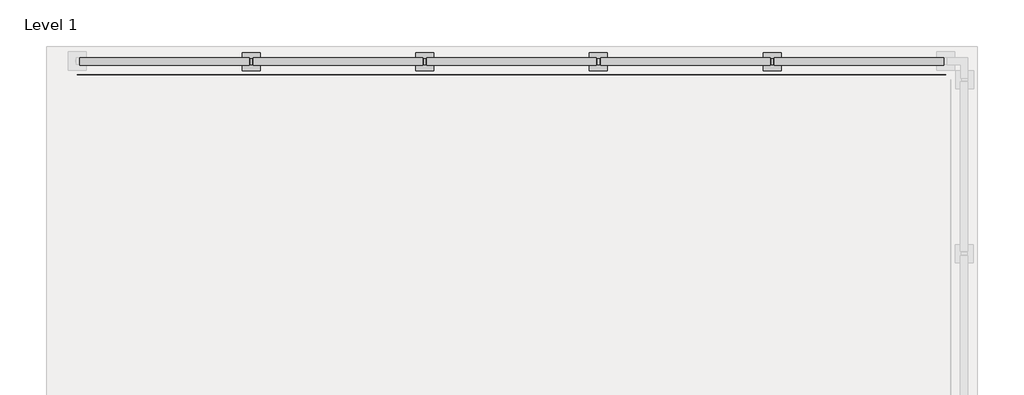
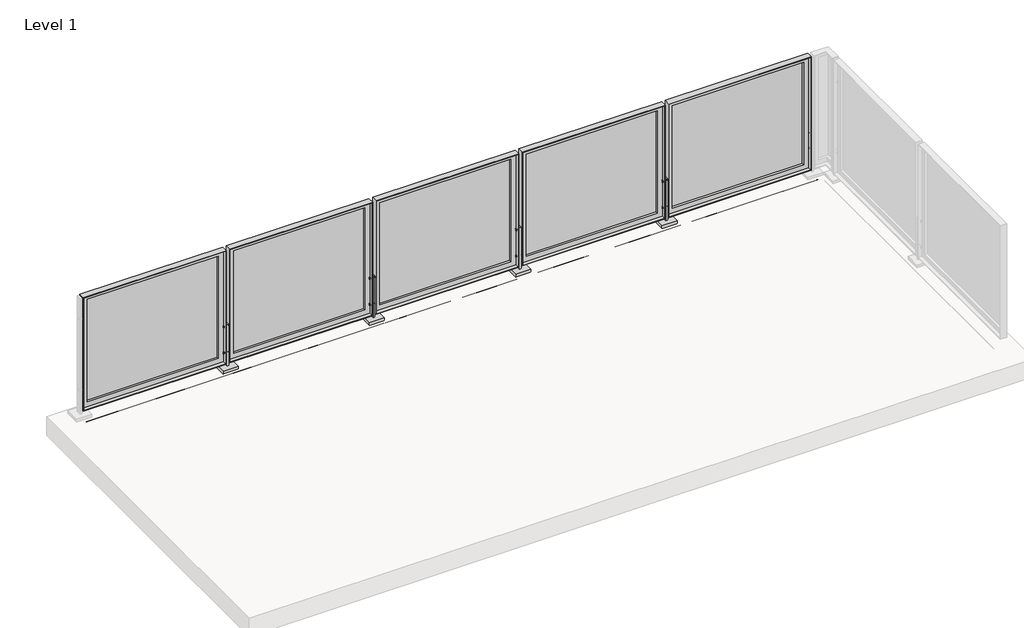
# One storey, part 4 of 37: 1 railing.
"""IFC4 building model written with IfcOpenShell, lengths in millimetres."""

from ifc_helpers import new_model, si_unit, point, frame, frame_2d, origin, origin_with_axes, place, context, project, spatial, polyline, circle_curve, trimmed, segment, composite_curve, outline, extrude, faceted_brep, element, save
from ifc_brep_helpers import plane_surface, cylinder_surface, advanced_brep

model = new_model("IFC4")

# Units and contexts
model_context = context("Model", 3, world=origin())
ifc_project = project(units=[si_unit("LENGTHUNIT", "METRE", prefix="MILLI")], contexts=[model_context])

# Site, building, storey
site = spatial("IfcSite", under=ifc_project)
building = spatial("IfcBuilding", under=site)
storey = spatial("IfcBuildingStorey", under=building, Name="Level 1", Elevation=0.0)

# Railing
placement = place(None, origin())
element("IfcRailing", 1, ObjectType="Metal-Panel-VIVA-FRAME-Slab-Top-Anchor-Straight", at=placement, inside=storey, context=model_context, shape_type="SolidModel", body=[
    extrude(outline(composite_curve([segment(trimmed(circle_curve(frame_2d((-21750.6777859, -0.254)), 0.254), [point((-21750.9317859, -0.254))], [point((-21750.4237859, -0.254))], False, "CARTESIAN"), True, "CONTINUOUS"), segment(trimmed(circle_curve(frame_2d((-21750.6777859, -0.254)), 0.254), [point((-21750.4237859, -0.254))], [point((-21750.9317859, -0.254))], False, "CARTESIAN"), True, "CONTINUOUS")], self_intersect=False)), frame((-39257.4137821, 0.0, 0.0), z_axis=(1.0, 0.0, 0.0), x_axis=(0.0, 1.0, 0.0)), (0.0, 0.0, 1.0), 6350.0),
    extrude(outline(composite_curve([segment(trimmed(circle_curve(frame_2d((-21750.6777859, -0.254)), 0.254), [point((-21750.9317859, -0.254))], [point((-21750.4237859, -0.254))], False, "CARTESIAN"), True, "CONTINUOUS"), segment(trimmed(circle_curve(frame_2d((-21750.6777859, -0.254)), 0.254), [point((-21750.4237859, -0.254))], [point((-21750.9317859, -0.254))], False, "CARTESIAN"), True, "CONTINUOUS")], self_intersect=False)), frame((-39257.4137821, 0.0, 0.0), z_axis=(1.0, 0.0, 0.0), x_axis=(0.0, 1.0, 0.0)), (0.0, 0.0, 1.0), 6350.0),
    extrude(outline(polyline([(-34136.5873251, -21627.8673859), (-32948.240239, -21627.8673859), (-32948.240239, -21630.8673859), (-34136.5873251, -21630.8673859), (-34136.5873251, -21627.8673859)])), frame((0.0, 0.0, 76.1959569), z_axis=(0.0, 0.0, 1.0), x_axis=(1.0, 0.0, 0.0)), (0.0, 0.0, 1.0), 990.5826861),
    faceted_brep([(-34161.9873251, -21627.8673859, 1092.1786431), (-32922.840239, -21627.8673859, 1092.1786431), (-32922.840239, -21627.8673859, 50.7959569), (-34161.9873251, -21627.8673859, 50.7959569), (-34136.5873251, -21627.8673859, 1066.7786431), (-34136.5873251, -21627.8673859, 76.1959569), (-32948.240239, -21627.8673859, 76.1959569), (-32948.240239, -21627.8673859, 1066.7786431), (-34136.5873251, -21630.8673859, 76.1959569), (-32948.240239, -21630.8673859, 76.1959569), (-32948.240239, -21630.8673859, 1066.7786431), (-34136.5873251, -21630.8673859, 1066.7786431), (-34155.9929251, -21681.6673859, 56.7903569), (-32928.834639, -21681.6673859, 56.7903569), (-32928.834639, -21650.8571859, 56.7903569), (-34155.9929251, -21650.8571859, 56.7903569), (-32928.834639, -21681.6673859, 1086.1842431), (-32928.834639, -21650.8571859, 1086.1842431), (-34155.9929251, -21650.8571859, 1086.1842431), (-34155.9929251, -21681.6673859, 1086.1842431), (-32922.840239, -21681.6673859, 50.7959569), (-32922.840239, -21681.6673859, 1092.1786431), (-34161.9873251, -21681.6673859, 1092.1786431), (-34161.9873251, -21681.6673859, 50.7959569), (-34111.1873251, -21630.8673859, 1041.3786431), (-34111.1873251, -21630.8673859, 101.5959569), (-32973.640239, -21630.8673859, 101.5959569), (-32973.640239, -21630.8673859, 1041.3786431), (-32973.640239, -21650.8571859, 101.5959569), (-34111.1873251, -21650.8571859, 101.5959569), (-34111.1873251, -21650.8571859, 1041.3786431), (-32973.640239, -21650.8571859, 1041.3786431)], [[[0, 1, 2, 3], [4, 5, 6, 7]], [[5, 8, 9, 6]], [[6, 9, 10, 7]], [[7, 10, 11, 4]], [[4, 11, 8, 5]], [[12, 13, 14, 15]], [[13, 16, 17, 14]], [[15, 18, 19, 12]], [[20, 21, 22, 23], [12, 19, 16, 13]], [[23, 22, 0, 3]], [[23, 3, 2, 20]], [[2, 1, 21, 20]], [[22, 21, 1, 0]], [[11, 10, 9, 8], [24, 25, 26, 27]], [[14, 17, 18, 15], [28, 29, 30, 31]], [[18, 17, 16, 19]], [[27, 31, 30, 24]], [[26, 28, 31, 27]], [[25, 29, 28, 26]], [[24, 30, 29, 25]]]),
    advanced_brep(
    [(-34203.6011821, -21654.7673859, 130.1496), (-34203.6011821, -21654.7673859, 139.7), (-34203.6011821, -21654.7673859, 149.2504), (-34198.8259821, -21654.7673859, 130.1496), (-34198.8259821, -21654.7673859, 149.2504), (-34198.8259821, -21654.7673859, 134.9248), (-34198.8259821, -21654.7673859, 144.4752), (-34156.0015821, -21654.7673859, 134.9248), (-34156.0015821, -21654.7673859, 144.4752), (-34156.0015821, -21654.7673859, 130.1496), (-34156.0015821, -21654.7673859, 149.2504), (-34151.2263821, -21654.7673859, 130.1496), (-34151.2263821, -21654.7673859, 149.2504), (-34151.2263821, -21654.7673859, 139.7)],
    [
        (0, 1),
        (1, 2),
        (2, 0, circle_curve(frame((-34203.6011821, -21654.7673859, 139.7), z_axis=(-1.0, 0.0, 0.0), x_axis=(0.0, 0.0, 1.0)), 9.5504)),
        (0, 2, circle_curve(frame((-34203.6011821, -21654.7673859, 139.7), z_axis=(-1.0, 0.0, 0.0), x_axis=(0.0, 0.0, 1.0)), 9.5504)),
        (3, 0),
        (2, 4),
        (4, 3, circle_curve(frame((-34198.8259821, -21654.7673859, 139.7), z_axis=(-1.0, 0.0, 0.0), x_axis=(0.0, 0.0, 1.0)), 9.5504)),
        (3, 4, circle_curve(frame((-34198.8259821, -21654.7673859, 139.7), z_axis=(-1.0, 0.0, 0.0), x_axis=(0.0, 0.0, 1.0)), 9.5504)),
        (5, 3),
        (4, 6),
        (6, 5, circle_curve(frame((-34198.8259821, -21654.7673859, 139.7), z_axis=(-1.0, 0.0, 0.0), x_axis=(0.0, 0.0, 1.0)), 4.7752)),
        (5, 6, circle_curve(frame((-34198.8259821, -21654.7673859, 139.7), z_axis=(-1.0, 0.0, 0.0), x_axis=(0.0, 0.0, 1.0)), 4.7752)),
        (7, 5),
        (6, 8),
        (8, 7, circle_curve(frame((-34156.0015821, -21654.7673859, 139.7), z_axis=(-1.0, 0.0, 0.0), x_axis=(0.0, 0.0, 1.0)), 4.7752)),
        (7, 8, circle_curve(frame((-34156.0015821, -21654.7673859, 139.7), z_axis=(-1.0, 0.0, 0.0), x_axis=(0.0, 0.0, 1.0)), 4.7752)),
        (9, 7),
        (8, 10),
        (10, 9, circle_curve(frame((-34156.0015821, -21654.7673859, 139.7), z_axis=(-1.0, 0.0, 0.0), x_axis=(0.0, 0.0, 1.0)), 9.5504)),
        (9, 10, circle_curve(frame((-34156.0015821, -21654.7673859, 139.7), z_axis=(-1.0, 0.0, 0.0), x_axis=(0.0, 0.0, 1.0)), 9.5504)),
        (11, 9),
        (10, 12),
        (12, 11, circle_curve(frame((-34151.2263821, -21654.7673859, 139.7), z_axis=(-1.0, 0.0, 0.0), x_axis=(0.0, 0.0, 1.0)), 9.5504)),
        (11, 12, circle_curve(frame((-34151.2263821, -21654.7673859, 139.7), z_axis=(-1.0, 0.0, 0.0), x_axis=(0.0, 0.0, 1.0)), 9.5504)),
        (13, 11),
        (12, 13),
    ],
    [
        plane_surface(frame((-34203.6011821, -21654.7673859, 139.7), z_axis=(-1.0, 0.0, 0.0), x_axis=(0.0, 0.0, 1.0))),
        cylinder_surface(frame((-37595.1815392, -21654.7673859, 139.7), z_axis=(1.0, 0.0, 0.0), x_axis=(0.0, 0.0, 1.0)), 9.5504),
        plane_surface(frame((-34198.8259821, -21654.7673859, 139.7), z_axis=(1.0, 0.0, 0.0), x_axis=(0.0, 0.0, 1.0))),
        cylinder_surface(frame((-37595.1815392, -21654.7673859, 139.7), z_axis=(1.0, 0.0, 0.0), x_axis=(0.0, 0.0, 1.0)), 4.7752),
        plane_surface(frame((-34156.0015821, -21654.7673859, 139.7), z_axis=(-1.0, 0.0, 0.0), x_axis=(0.0, 0.0, 1.0))),
        plane_surface(frame((-34151.2263821, -21654.7673859, 139.7), z_axis=(1.0, 0.0, 0.0), x_axis=(0.0, 0.0, 1.0))),
    ],
    [
        (0, [[1, 2, 3]]),
        (0, [[-2, -1, 4]]),
        (1, [[5, -3, 6, 7]]),
        (1, [[-6, -4, -5, 8]]),
        (2, [[9, -7, 10, 11]]),
        (2, [[-10, -8, -9, 12]]),
        (3, [[13, -11, 14, 15]]),
        (3, [[-14, -12, -13, 16]]),
        (4, [[17, -15, 18, 19]]),
        (4, [[-18, -16, -17, 20]]),
        (1, [[21, -19, 22, 23]]),
        (1, [[-22, -20, -21, 24]]),
        (5, [[25, -23, 26]]),
        (5, [[-26, -24, -25]]),
    ],
),
    advanced_brep(
    [(-34203.6011821, -21654.7673859, 371.4496), (-34203.6011821, -21654.7673859, 381.0), (-34203.6011821, -21654.7673859, 390.5504), (-34198.8259821, -21654.7673859, 371.4496), (-34198.8259821, -21654.7673859, 390.5504), (-34198.8259821, -21654.7673859, 376.2248), (-34198.8259821, -21654.7673859, 385.7752), (-34156.0015821, -21654.7673859, 376.2248), (-34156.0015821, -21654.7673859, 385.7752), (-34156.0015821, -21654.7673859, 371.4496), (-34156.0015821, -21654.7673859, 390.5504), (-34151.2263821, -21654.7673859, 371.4496), (-34151.2263821, -21654.7673859, 390.5504), (-34151.2263821, -21654.7673859, 381.0)],
    [
        (0, 1),
        (1, 2),
        (2, 0, circle_curve(frame((-34203.6011821, -21654.7673859, 381.0), z_axis=(-1.0, 0.0, 0.0), x_axis=(0.0, 0.0, 1.0)), 9.5504)),
        (0, 2, circle_curve(frame((-34203.6011821, -21654.7673859, 381.0), z_axis=(-1.0, 0.0, 0.0), x_axis=(0.0, 0.0, 1.0)), 9.5504)),
        (3, 0),
        (2, 4),
        (4, 3, circle_curve(frame((-34198.8259821, -21654.7673859, 381.0), z_axis=(-1.0, 0.0, 0.0), x_axis=(0.0, 0.0, 1.0)), 9.5504)),
        (3, 4, circle_curve(frame((-34198.8259821, -21654.7673859, 381.0), z_axis=(-1.0, 0.0, 0.0), x_axis=(0.0, 0.0, 1.0)), 9.5504)),
        (5, 3),
        (4, 6),
        (6, 5, circle_curve(frame((-34198.8259821, -21654.7673859, 381.0), z_axis=(-1.0, 0.0, 0.0), x_axis=(0.0, 0.0, 1.0)), 4.7752)),
        (5, 6, circle_curve(frame((-34198.8259821, -21654.7673859, 381.0), z_axis=(-1.0, 0.0, 0.0), x_axis=(0.0, 0.0, 1.0)), 4.7752)),
        (7, 5),
        (6, 8),
        (8, 7, circle_curve(frame((-34156.0015821, -21654.7673859, 381.0), z_axis=(-1.0, 0.0, 0.0), x_axis=(0.0, 0.0, 1.0)), 4.7752)),
        (7, 8, circle_curve(frame((-34156.0015821, -21654.7673859, 381.0), z_axis=(-1.0, 0.0, 0.0), x_axis=(0.0, 0.0, 1.0)), 4.7752)),
        (9, 7),
        (8, 10),
        (10, 9, circle_curve(frame((-34156.0015821, -21654.7673859, 381.0), z_axis=(-1.0, 0.0, 0.0), x_axis=(0.0, 0.0, 1.0)), 9.5504)),
        (9, 10, circle_curve(frame((-34156.0015821, -21654.7673859, 381.0), z_axis=(-1.0, 0.0, 0.0), x_axis=(0.0, 0.0, 1.0)), 9.5504)),
        (11, 9),
        (10, 12),
        (12, 11, circle_curve(frame((-34151.2263821, -21654.7673859, 381.0), z_axis=(-1.0, 0.0, 0.0), x_axis=(0.0, 0.0, 1.0)), 9.5504)),
        (11, 12, circle_curve(frame((-34151.2263821, -21654.7673859, 381.0), z_axis=(-1.0, 0.0, 0.0), x_axis=(0.0, 0.0, 1.0)), 9.5504)),
        (13, 11),
        (12, 13),
    ],
    [
        plane_surface(frame((-34203.6011821, -21654.7673859, 381.0), z_axis=(-1.0, 0.0, 0.0), x_axis=(0.0, 0.0, 1.0))),
        cylinder_surface(frame((-37595.1815392, -21654.7673859, 381.0), z_axis=(1.0, 0.0, 0.0), x_axis=(0.0, 0.0, 1.0)), 9.5504),
        plane_surface(frame((-34198.8259821, -21654.7673859, 381.0), z_axis=(1.0, 0.0, 0.0), x_axis=(0.0, 0.0, 1.0))),
        cylinder_surface(frame((-37595.1815392, -21654.7673859, 381.0), z_axis=(1.0, 0.0, 0.0), x_axis=(0.0, 0.0, 1.0)), 4.7752),
        plane_surface(frame((-34156.0015821, -21654.7673859, 381.0), z_axis=(-1.0, 0.0, 0.0), x_axis=(0.0, 0.0, 1.0))),
        plane_surface(frame((-34151.2263821, -21654.7673859, 381.0), z_axis=(1.0, 0.0, 0.0), x_axis=(0.0, 0.0, 1.0))),
    ],
    [
        (0, [[1, 2, 3]]),
        (0, [[-2, -1, 4]]),
        (1, [[5, -3, 6, 7]]),
        (1, [[-6, -4, -5, 8]]),
        (2, [[9, -7, 10, 11]]),
        (2, [[-10, -8, -9, 12]]),
        (3, [[13, -11, 14, 15]]),
        (3, [[-14, -12, -13, 16]]),
        (4, [[17, -15, 18, 19]]),
        (4, [[-18, -16, -17, 20]]),
        (1, [[21, -19, 22, 23]]),
        (1, [[-22, -20, -21, 24]]),
        (5, [[25, -23, 26]]),
        (5, [[-26, -24, -25]]),
    ],
),
    extrude(outline(polyline([(-34243.3013821, -21720.6549859), (-34243.3013821, -21588.8797859), (-34111.5261821, -21588.8797859), (-34111.5261821, -21720.6549859), (-34243.3013821, -21720.6549859)])), origin_with_axes(), (0.0, 0.0, 1.0), 25.4),
    extrude(outline(polyline([(-34185.3533737, -21676.9923859), (-34185.3533737, -21632.5423859), (-34169.4741904, -21632.5423859), (-34169.4741904, -21676.9923859), (-34185.3533737, -21676.9923859)])), origin_with_axes(), (0.0, 0.0, 1.0), 406.4),
    extrude(outline(polyline([(-35406.5873251, -21627.8673859), (-34218.240239, -21627.8673859), (-34218.240239, -21630.8673859), (-35406.5873251, -21630.8673859), (-35406.5873251, -21627.8673859)])), frame((0.0, 0.0, 76.1959569), z_axis=(0.0, 0.0, 1.0), x_axis=(1.0, 0.0, 0.0)), (0.0, 0.0, 1.0), 990.5826861),
    faceted_brep([(-35431.9873251, -21627.8673859, 1092.1786431), (-34192.840239, -21627.8673859, 1092.1786431), (-34192.840239, -21627.8673859, 50.7959569), (-35431.9873251, -21627.8673859, 50.7959569), (-35406.5873251, -21627.8673859, 1066.7786431), (-35406.5873251, -21627.8673859, 76.1959569), (-34218.240239, -21627.8673859, 76.1959569), (-34218.240239, -21627.8673859, 1066.7786431), (-35406.5873251, -21630.8673859, 76.1959569), (-34218.240239, -21630.8673859, 76.1959569), (-34218.240239, -21630.8673859, 1066.7786431), (-35406.5873251, -21630.8673859, 1066.7786431), (-35425.9929251, -21681.6673859, 56.7903569), (-34198.834639, -21681.6673859, 56.7903569), (-34198.834639, -21650.8571859, 56.7903569), (-35425.9929251, -21650.8571859, 56.7903569), (-34198.834639, -21681.6673859, 1086.1842431), (-34198.834639, -21650.8571859, 1086.1842431), (-35425.9929251, -21650.8571859, 1086.1842431), (-35425.9929251, -21681.6673859, 1086.1842431), (-34192.840239, -21681.6673859, 50.7959569), (-34192.840239, -21681.6673859, 1092.1786431), (-35431.9873251, -21681.6673859, 1092.1786431), (-35431.9873251, -21681.6673859, 50.7959569), (-35381.1873251, -21630.8673859, 1041.3786431), (-35381.1873251, -21630.8673859, 101.5959569), (-34243.640239, -21630.8673859, 101.5959569), (-34243.640239, -21630.8673859, 1041.3786431), (-34243.640239, -21650.8571859, 101.5959569), (-35381.1873251, -21650.8571859, 101.5959569), (-35381.1873251, -21650.8571859, 1041.3786431), (-34243.640239, -21650.8571859, 1041.3786431)], [[[0, 1, 2, 3], [4, 5, 6, 7]], [[5, 8, 9, 6]], [[6, 9, 10, 7]], [[7, 10, 11, 4]], [[4, 11, 8, 5]], [[12, 13, 14, 15]], [[13, 16, 17, 14]], [[15, 18, 19, 12]], [[20, 21, 22, 23], [12, 19, 16, 13]], [[23, 22, 0, 3]], [[23, 3, 2, 20]], [[2, 1, 21, 20]], [[22, 21, 1, 0]], [[11, 10, 9, 8], [24, 25, 26, 27]], [[14, 17, 18, 15], [28, 29, 30, 31]], [[18, 17, 16, 19]], [[27, 31, 30, 24]], [[26, 28, 31, 27]], [[25, 29, 28, 26]], [[24, 30, 29, 25]]]),
    advanced_brep(
    [(-35473.6011821, -21654.7673859, 130.1496), (-35473.6011821, -21654.7673859, 139.7), (-35473.6011821, -21654.7673859, 149.2504), (-35468.8259821, -21654.7673859, 130.1496), (-35468.8259821, -21654.7673859, 149.2504), (-35468.8259821, -21654.7673859, 134.9248), (-35468.8259821, -21654.7673859, 144.4752), (-35426.0015821, -21654.7673859, 134.9248), (-35426.0015821, -21654.7673859, 144.4752), (-35426.0015821, -21654.7673859, 130.1496), (-35426.0015821, -21654.7673859, 149.2504), (-35421.2263821, -21654.7673859, 130.1496), (-35421.2263821, -21654.7673859, 149.2504), (-35421.2263821, -21654.7673859, 139.7)],
    [
        (0, 1),
        (1, 2),
        (2, 0, circle_curve(frame((-35473.6011821, -21654.7673859, 139.7), z_axis=(-1.0, 0.0, 0.0), x_axis=(0.0, 0.0, 1.0)), 9.5504)),
        (0, 2, circle_curve(frame((-35473.6011821, -21654.7673859, 139.7), z_axis=(-1.0, 0.0, 0.0), x_axis=(0.0, 0.0, 1.0)), 9.5504)),
        (3, 0),
        (2, 4),
        (4, 3, circle_curve(frame((-35468.8259821, -21654.7673859, 139.7), z_axis=(-1.0, 0.0, 0.0), x_axis=(0.0, 0.0, 1.0)), 9.5504)),
        (3, 4, circle_curve(frame((-35468.8259821, -21654.7673859, 139.7), z_axis=(-1.0, 0.0, 0.0), x_axis=(0.0, 0.0, 1.0)), 9.5504)),
        (5, 3),
        (4, 6),
        (6, 5, circle_curve(frame((-35468.8259821, -21654.7673859, 139.7), z_axis=(-1.0, 0.0, 0.0), x_axis=(0.0, 0.0, 1.0)), 4.7752)),
        (5, 6, circle_curve(frame((-35468.8259821, -21654.7673859, 139.7), z_axis=(-1.0, 0.0, 0.0), x_axis=(0.0, 0.0, 1.0)), 4.7752)),
        (7, 5),
        (6, 8),
        (8, 7, circle_curve(frame((-35426.0015821, -21654.7673859, 139.7), z_axis=(-1.0, 0.0, 0.0), x_axis=(0.0, 0.0, 1.0)), 4.7752)),
        (7, 8, circle_curve(frame((-35426.0015821, -21654.7673859, 139.7), z_axis=(-1.0, 0.0, 0.0), x_axis=(0.0, 0.0, 1.0)), 4.7752)),
        (9, 7),
        (8, 10),
        (10, 9, circle_curve(frame((-35426.0015821, -21654.7673859, 139.7), z_axis=(-1.0, 0.0, 0.0), x_axis=(0.0, 0.0, 1.0)), 9.5504)),
        (9, 10, circle_curve(frame((-35426.0015821, -21654.7673859, 139.7), z_axis=(-1.0, 0.0, 0.0), x_axis=(0.0, 0.0, 1.0)), 9.5504)),
        (11, 9),
        (10, 12),
        (12, 11, circle_curve(frame((-35421.2263821, -21654.7673859, 139.7), z_axis=(-1.0, 0.0, 0.0), x_axis=(0.0, 0.0, 1.0)), 9.5504)),
        (11, 12, circle_curve(frame((-35421.2263821, -21654.7673859, 139.7), z_axis=(-1.0, 0.0, 0.0), x_axis=(0.0, 0.0, 1.0)), 9.5504)),
        (13, 11),
        (12, 13),
    ],
    [
        plane_surface(frame((-35473.6011821, -21654.7673859, 139.7), z_axis=(-1.0, 0.0, 0.0), x_axis=(0.0, 0.0, 1.0))),
        cylinder_surface(frame((-38865.1815392, -21654.7673859, 139.7), z_axis=(1.0, 0.0, 0.0), x_axis=(0.0, 0.0, 1.0)), 9.5504),
        plane_surface(frame((-35468.8259821, -21654.7673859, 139.7), z_axis=(1.0, 0.0, 0.0), x_axis=(0.0, 0.0, 1.0))),
        cylinder_surface(frame((-38865.1815392, -21654.7673859, 139.7), z_axis=(1.0, 0.0, 0.0), x_axis=(0.0, 0.0, 1.0)), 4.7752),
        plane_surface(frame((-35426.0015821, -21654.7673859, 139.7), z_axis=(-1.0, 0.0, 0.0), x_axis=(0.0, 0.0, 1.0))),
        plane_surface(frame((-35421.2263821, -21654.7673859, 139.7), z_axis=(1.0, 0.0, 0.0), x_axis=(0.0, 0.0, 1.0))),
    ],
    [
        (0, [[1, 2, 3]]),
        (0, [[-2, -1, 4]]),
        (1, [[5, -3, 6, 7]]),
        (1, [[-6, -4, -5, 8]]),
        (2, [[9, -7, 10, 11]]),
        (2, [[-10, -8, -9, 12]]),
        (3, [[13, -11, 14, 15]]),
        (3, [[-14, -12, -13, 16]]),
        (4, [[17, -15, 18, 19]]),
        (4, [[-18, -16, -17, 20]]),
        (1, [[21, -19, 22, 23]]),
        (1, [[-22, -20, -21, 24]]),
        (5, [[25, -23, 26]]),
        (5, [[-26, -24, -25]]),
    ],
),
    advanced_brep(
    [(-35473.6011821, -21654.7673859, 371.4496), (-35473.6011821, -21654.7673859, 381.0), (-35473.6011821, -21654.7673859, 390.5504), (-35468.8259821, -21654.7673859, 371.4496), (-35468.8259821, -21654.7673859, 390.5504), (-35468.8259821, -21654.7673859, 376.2248), (-35468.8259821, -21654.7673859, 385.7752), (-35426.0015821, -21654.7673859, 376.2248), (-35426.0015821, -21654.7673859, 385.7752), (-35426.0015821, -21654.7673859, 371.4496), (-35426.0015821, -21654.7673859, 390.5504), (-35421.2263821, -21654.7673859, 371.4496), (-35421.2263821, -21654.7673859, 390.5504), (-35421.2263821, -21654.7673859, 381.0)],
    [
        (0, 1),
        (1, 2),
        (2, 0, circle_curve(frame((-35473.6011821, -21654.7673859, 381.0), z_axis=(-1.0, 0.0, 0.0), x_axis=(0.0, 0.0, 1.0)), 9.5504)),
        (0, 2, circle_curve(frame((-35473.6011821, -21654.7673859, 381.0), z_axis=(-1.0, 0.0, 0.0), x_axis=(0.0, 0.0, 1.0)), 9.5504)),
        (3, 0),
        (2, 4),
        (4, 3, circle_curve(frame((-35468.8259821, -21654.7673859, 381.0), z_axis=(-1.0, 0.0, 0.0), x_axis=(0.0, 0.0, 1.0)), 9.5504)),
        (3, 4, circle_curve(frame((-35468.8259821, -21654.7673859, 381.0), z_axis=(-1.0, 0.0, 0.0), x_axis=(0.0, 0.0, 1.0)), 9.5504)),
        (5, 3),
        (4, 6),
        (6, 5, circle_curve(frame((-35468.8259821, -21654.7673859, 381.0), z_axis=(-1.0, 0.0, 0.0), x_axis=(0.0, 0.0, 1.0)), 4.7752)),
        (5, 6, circle_curve(frame((-35468.8259821, -21654.7673859, 381.0), z_axis=(-1.0, 0.0, 0.0), x_axis=(0.0, 0.0, 1.0)), 4.7752)),
        (7, 5),
        (6, 8),
        (8, 7, circle_curve(frame((-35426.0015821, -21654.7673859, 381.0), z_axis=(-1.0, 0.0, 0.0), x_axis=(0.0, 0.0, 1.0)), 4.7752)),
        (7, 8, circle_curve(frame((-35426.0015821, -21654.7673859, 381.0), z_axis=(-1.0, 0.0, 0.0), x_axis=(0.0, 0.0, 1.0)), 4.7752)),
        (9, 7),
        (8, 10),
        (10, 9, circle_curve(frame((-35426.0015821, -21654.7673859, 381.0), z_axis=(-1.0, 0.0, 0.0), x_axis=(0.0, 0.0, 1.0)), 9.5504)),
        (9, 10, circle_curve(frame((-35426.0015821, -21654.7673859, 381.0), z_axis=(-1.0, 0.0, 0.0), x_axis=(0.0, 0.0, 1.0)), 9.5504)),
        (11, 9),
        (10, 12),
        (12, 11, circle_curve(frame((-35421.2263821, -21654.7673859, 381.0), z_axis=(-1.0, 0.0, 0.0), x_axis=(0.0, 0.0, 1.0)), 9.5504)),
        (11, 12, circle_curve(frame((-35421.2263821, -21654.7673859, 381.0), z_axis=(-1.0, 0.0, 0.0), x_axis=(0.0, 0.0, 1.0)), 9.5504)),
        (13, 11),
        (12, 13),
    ],
    [
        plane_surface(frame((-35473.6011821, -21654.7673859, 381.0), z_axis=(-1.0, 0.0, 0.0), x_axis=(0.0, 0.0, 1.0))),
        cylinder_surface(frame((-38865.1815392, -21654.7673859, 381.0), z_axis=(1.0, 0.0, 0.0), x_axis=(0.0, 0.0, 1.0)), 9.5504),
        plane_surface(frame((-35468.8259821, -21654.7673859, 381.0), z_axis=(1.0, 0.0, 0.0), x_axis=(0.0, 0.0, 1.0))),
        cylinder_surface(frame((-38865.1815392, -21654.7673859, 381.0), z_axis=(1.0, 0.0, 0.0), x_axis=(0.0, 0.0, 1.0)), 4.7752),
        plane_surface(frame((-35426.0015821, -21654.7673859, 381.0), z_axis=(-1.0, 0.0, 0.0), x_axis=(0.0, 0.0, 1.0))),
        plane_surface(frame((-35421.2263821, -21654.7673859, 381.0), z_axis=(1.0, 0.0, 0.0), x_axis=(0.0, 0.0, 1.0))),
    ],
    [
        (0, [[1, 2, 3]]),
        (0, [[-2, -1, 4]]),
        (1, [[5, -3, 6, 7]]),
        (1, [[-6, -4, -5, 8]]),
        (2, [[9, -7, 10, 11]]),
        (2, [[-10, -8, -9, 12]]),
        (3, [[13, -11, 14, 15]]),
        (3, [[-14, -12, -13, 16]]),
        (4, [[17, -15, 18, 19]]),
        (4, [[-18, -16, -17, 20]]),
        (1, [[21, -19, 22, 23]]),
        (1, [[-22, -20, -21, 24]]),
        (5, [[25, -23, 26]]),
        (5, [[-26, -24, -25]]),
    ],
),
    extrude(outline(polyline([(-35513.3013821, -21720.6549859), (-35513.3013821, -21588.8797859), (-35381.5261821, -21588.8797859), (-35381.5261821, -21720.6549859), (-35513.3013821, -21720.6549859)])), origin_with_axes(), (0.0, 0.0, 1.0), 25.4),
    extrude(outline(polyline([(-35455.3533737, -21676.9923859), (-35455.3533737, -21632.5423859), (-35439.4741904, -21632.5423859), (-35439.4741904, -21676.9923859), (-35455.3533737, -21676.9923859)])), origin_with_axes(), (0.0, 0.0, 1.0), 406.4),
    extrude(outline(polyline([(-36676.5873251, -21627.8673859), (-35488.240239, -21627.8673859), (-35488.240239, -21630.8673859), (-36676.5873251, -21630.8673859), (-36676.5873251, -21627.8673859)])), frame((0.0, 0.0, 76.1959569), z_axis=(0.0, 0.0, 1.0), x_axis=(1.0, 0.0, 0.0)), (0.0, 0.0, 1.0), 990.5826861),
    faceted_brep([(-36701.9873251, -21627.8673859, 1092.1786431), (-35462.840239, -21627.8673859, 1092.1786431), (-35462.840239, -21627.8673859, 50.7959569), (-36701.9873251, -21627.8673859, 50.7959569), (-36676.5873251, -21627.8673859, 1066.7786431), (-36676.5873251, -21627.8673859, 76.1959569), (-35488.240239, -21627.8673859, 76.1959569), (-35488.240239, -21627.8673859, 1066.7786431), (-36676.5873251, -21630.8673859, 76.1959569), (-35488.240239, -21630.8673859, 76.1959569), (-35488.240239, -21630.8673859, 1066.7786431), (-36676.5873251, -21630.8673859, 1066.7786431), (-36695.9929251, -21681.6673859, 56.7903569), (-35468.834639, -21681.6673859, 56.7903569), (-35468.834639, -21650.8571859, 56.7903569), (-36695.9929251, -21650.8571859, 56.7903569), (-35468.834639, -21681.6673859, 1086.1842431), (-35468.834639, -21650.8571859, 1086.1842431), (-36695.9929251, -21650.8571859, 1086.1842431), (-36695.9929251, -21681.6673859, 1086.1842431), (-35462.840239, -21681.6673859, 50.7959569), (-35462.840239, -21681.6673859, 1092.1786431), (-36701.9873251, -21681.6673859, 1092.1786431), (-36701.9873251, -21681.6673859, 50.7959569), (-36651.1873251, -21630.8673859, 1041.3786431), (-36651.1873251, -21630.8673859, 101.5959569), (-35513.640239, -21630.8673859, 101.5959569), (-35513.640239, -21630.8673859, 1041.3786431), (-35513.640239, -21650.8571859, 101.5959569), (-36651.1873251, -21650.8571859, 101.5959569), (-36651.1873251, -21650.8571859, 1041.3786431), (-35513.640239, -21650.8571859, 1041.3786431)], [[[0, 1, 2, 3], [4, 5, 6, 7]], [[5, 8, 9, 6]], [[6, 9, 10, 7]], [[7, 10, 11, 4]], [[4, 11, 8, 5]], [[12, 13, 14, 15]], [[13, 16, 17, 14]], [[15, 18, 19, 12]], [[20, 21, 22, 23], [12, 19, 16, 13]], [[23, 22, 0, 3]], [[23, 3, 2, 20]], [[2, 1, 21, 20]], [[22, 21, 1, 0]], [[11, 10, 9, 8], [24, 25, 26, 27]], [[14, 17, 18, 15], [28, 29, 30, 31]], [[18, 17, 16, 19]], [[27, 31, 30, 24]], [[26, 28, 31, 27]], [[25, 29, 28, 26]], [[24, 30, 29, 25]]]),
    advanced_brep(
    [(-36743.6011821, -21654.7673859, 130.1496), (-36743.6011821, -21654.7673859, 139.7), (-36743.6011821, -21654.7673859, 149.2504), (-36738.8259821, -21654.7673859, 130.1496), (-36738.8259821, -21654.7673859, 149.2504), (-36738.8259821, -21654.7673859, 134.9248), (-36738.8259821, -21654.7673859, 144.4752), (-36696.0015821, -21654.7673859, 134.9248), (-36696.0015821, -21654.7673859, 144.4752), (-36696.0015821, -21654.7673859, 130.1496), (-36696.0015821, -21654.7673859, 149.2504), (-36691.2263821, -21654.7673859, 130.1496), (-36691.2263821, -21654.7673859, 149.2504), (-36691.2263821, -21654.7673859, 139.7)],
    [
        (0, 1),
        (1, 2),
        (2, 0, circle_curve(frame((-36743.6011821, -21654.7673859, 139.7), z_axis=(-1.0, 0.0, 0.0), x_axis=(0.0, 0.0, 1.0)), 9.5504)),
        (0, 2, circle_curve(frame((-36743.6011821, -21654.7673859, 139.7), z_axis=(-1.0, 0.0, 0.0), x_axis=(0.0, 0.0, 1.0)), 9.5504)),
        (3, 0),
        (2, 4),
        (4, 3, circle_curve(frame((-36738.8259821, -21654.7673859, 139.7), z_axis=(-1.0, 0.0, 0.0), x_axis=(0.0, 0.0, 1.0)), 9.5504)),
        (3, 4, circle_curve(frame((-36738.8259821, -21654.7673859, 139.7), z_axis=(-1.0, 0.0, 0.0), x_axis=(0.0, 0.0, 1.0)), 9.5504)),
        (5, 3),
        (4, 6),
        (6, 5, circle_curve(frame((-36738.8259821, -21654.7673859, 139.7), z_axis=(-1.0, 0.0, 0.0), x_axis=(0.0, 0.0, 1.0)), 4.7752)),
        (5, 6, circle_curve(frame((-36738.8259821, -21654.7673859, 139.7), z_axis=(-1.0, 0.0, 0.0), x_axis=(0.0, 0.0, 1.0)), 4.7752)),
        (7, 5),
        (6, 8),
        (8, 7, circle_curve(frame((-36696.0015821, -21654.7673859, 139.7), z_axis=(-1.0, 0.0, 0.0), x_axis=(0.0, 0.0, 1.0)), 4.7752)),
        (7, 8, circle_curve(frame((-36696.0015821, -21654.7673859, 139.7), z_axis=(-1.0, 0.0, 0.0), x_axis=(0.0, 0.0, 1.0)), 4.7752)),
        (9, 7),
        (8, 10),
        (10, 9, circle_curve(frame((-36696.0015821, -21654.7673859, 139.7), z_axis=(-1.0, 0.0, 0.0), x_axis=(0.0, 0.0, 1.0)), 9.5504)),
        (9, 10, circle_curve(frame((-36696.0015821, -21654.7673859, 139.7), z_axis=(-1.0, 0.0, 0.0), x_axis=(0.0, 0.0, 1.0)), 9.5504)),
        (11, 9),
        (10, 12),
        (12, 11, circle_curve(frame((-36691.2263821, -21654.7673859, 139.7), z_axis=(-1.0, 0.0, 0.0), x_axis=(0.0, 0.0, 1.0)), 9.5504)),
        (11, 12, circle_curve(frame((-36691.2263821, -21654.7673859, 139.7), z_axis=(-1.0, 0.0, 0.0), x_axis=(0.0, 0.0, 1.0)), 9.5504)),
        (13, 11),
        (12, 13),
    ],
    [
        plane_surface(frame((-36743.6011821, -21654.7673859, 139.7), z_axis=(-1.0, 0.0, 0.0), x_axis=(0.0, 0.0, 1.0))),
        cylinder_surface(frame((-40135.1815392, -21654.7673859, 139.7), z_axis=(1.0, 0.0, 0.0), x_axis=(0.0, 0.0, 1.0)), 9.5504),
        plane_surface(frame((-36738.8259821, -21654.7673859, 139.7), z_axis=(1.0, 0.0, 0.0), x_axis=(0.0, 0.0, 1.0))),
        cylinder_surface(frame((-40135.1815392, -21654.7673859, 139.7), z_axis=(1.0, 0.0, 0.0), x_axis=(0.0, 0.0, 1.0)), 4.7752),
        plane_surface(frame((-36696.0015821, -21654.7673859, 139.7), z_axis=(-1.0, 0.0, 0.0), x_axis=(0.0, 0.0, 1.0))),
        plane_surface(frame((-36691.2263821, -21654.7673859, 139.7), z_axis=(1.0, 0.0, 0.0), x_axis=(0.0, 0.0, 1.0))),
    ],
    [
        (0, [[1, 2, 3]]),
        (0, [[-2, -1, 4]]),
        (1, [[5, -3, 6, 7]]),
        (1, [[-6, -4, -5, 8]]),
        (2, [[9, -7, 10, 11]]),
        (2, [[-10, -8, -9, 12]]),
        (3, [[13, -11, 14, 15]]),
        (3, [[-14, -12, -13, 16]]),
        (4, [[17, -15, 18, 19]]),
        (4, [[-18, -16, -17, 20]]),
        (1, [[21, -19, 22, 23]]),
        (1, [[-22, -20, -21, 24]]),
        (5, [[25, -23, 26]]),
        (5, [[-26, -24, -25]]),
    ],
),
    advanced_brep(
    [(-36743.6011821, -21654.7673859, 371.4496), (-36743.6011821, -21654.7673859, 381.0), (-36743.6011821, -21654.7673859, 390.5504), (-36738.8259821, -21654.7673859, 371.4496), (-36738.8259821, -21654.7673859, 390.5504), (-36738.8259821, -21654.7673859, 376.2248), (-36738.8259821, -21654.7673859, 385.7752), (-36696.0015821, -21654.7673859, 376.2248), (-36696.0015821, -21654.7673859, 385.7752), (-36696.0015821, -21654.7673859, 371.4496), (-36696.0015821, -21654.7673859, 390.5504), (-36691.2263821, -21654.7673859, 371.4496), (-36691.2263821, -21654.7673859, 390.5504), (-36691.2263821, -21654.7673859, 381.0)],
    [
        (0, 1),
        (1, 2),
        (2, 0, circle_curve(frame((-36743.6011821, -21654.7673859, 381.0), z_axis=(-1.0, 0.0, 0.0), x_axis=(0.0, 0.0, 1.0)), 9.5504)),
        (0, 2, circle_curve(frame((-36743.6011821, -21654.7673859, 381.0), z_axis=(-1.0, 0.0, 0.0), x_axis=(0.0, 0.0, 1.0)), 9.5504)),
        (3, 0),
        (2, 4),
        (4, 3, circle_curve(frame((-36738.8259821, -21654.7673859, 381.0), z_axis=(-1.0, 0.0, 0.0), x_axis=(0.0, 0.0, 1.0)), 9.5504)),
        (3, 4, circle_curve(frame((-36738.8259821, -21654.7673859, 381.0), z_axis=(-1.0, 0.0, 0.0), x_axis=(0.0, 0.0, 1.0)), 9.5504)),
        (5, 3),
        (4, 6),
        (6, 5, circle_curve(frame((-36738.8259821, -21654.7673859, 381.0), z_axis=(-1.0, 0.0, 0.0), x_axis=(0.0, 0.0, 1.0)), 4.7752)),
        (5, 6, circle_curve(frame((-36738.8259821, -21654.7673859, 381.0), z_axis=(-1.0, 0.0, 0.0), x_axis=(0.0, 0.0, 1.0)), 4.7752)),
        (7, 5),
        (6, 8),
        (8, 7, circle_curve(frame((-36696.0015821, -21654.7673859, 381.0), z_axis=(-1.0, 0.0, 0.0), x_axis=(0.0, 0.0, 1.0)), 4.7752)),
        (7, 8, circle_curve(frame((-36696.0015821, -21654.7673859, 381.0), z_axis=(-1.0, 0.0, 0.0), x_axis=(0.0, 0.0, 1.0)), 4.7752)),
        (9, 7),
        (8, 10),
        (10, 9, circle_curve(frame((-36696.0015821, -21654.7673859, 381.0), z_axis=(-1.0, 0.0, 0.0), x_axis=(0.0, 0.0, 1.0)), 9.5504)),
        (9, 10, circle_curve(frame((-36696.0015821, -21654.7673859, 381.0), z_axis=(-1.0, 0.0, 0.0), x_axis=(0.0, 0.0, 1.0)), 9.5504)),
        (11, 9),
        (10, 12),
        (12, 11, circle_curve(frame((-36691.2263821, -21654.7673859, 381.0), z_axis=(-1.0, 0.0, 0.0), x_axis=(0.0, 0.0, 1.0)), 9.5504)),
        (11, 12, circle_curve(frame((-36691.2263821, -21654.7673859, 381.0), z_axis=(-1.0, 0.0, 0.0), x_axis=(0.0, 0.0, 1.0)), 9.5504)),
        (13, 11),
        (12, 13),
    ],
    [
        plane_surface(frame((-36743.6011821, -21654.7673859, 381.0), z_axis=(-1.0, 0.0, 0.0), x_axis=(0.0, 0.0, 1.0))),
        cylinder_surface(frame((-40135.1815392, -21654.7673859, 381.0), z_axis=(1.0, 0.0, 0.0), x_axis=(0.0, 0.0, 1.0)), 9.5504),
        plane_surface(frame((-36738.8259821, -21654.7673859, 381.0), z_axis=(1.0, 0.0, 0.0), x_axis=(0.0, 0.0, 1.0))),
        cylinder_surface(frame((-40135.1815392, -21654.7673859, 381.0), z_axis=(1.0, 0.0, 0.0), x_axis=(0.0, 0.0, 1.0)), 4.7752),
        plane_surface(frame((-36696.0015821, -21654.7673859, 381.0), z_axis=(-1.0, 0.0, 0.0), x_axis=(0.0, 0.0, 1.0))),
        plane_surface(frame((-36691.2263821, -21654.7673859, 381.0), z_axis=(1.0, 0.0, 0.0), x_axis=(0.0, 0.0, 1.0))),
    ],
    [
        (0, [[1, 2, 3]]),
        (0, [[-2, -1, 4]]),
        (1, [[5, -3, 6, 7]]),
        (1, [[-6, -4, -5, 8]]),
        (2, [[9, -7, 10, 11]]),
        (2, [[-10, -8, -9, 12]]),
        (3, [[13, -11, 14, 15]]),
        (3, [[-14, -12, -13, 16]]),
        (4, [[17, -15, 18, 19]]),
        (4, [[-18, -16, -17, 20]]),
        (1, [[21, -19, 22, 23]]),
        (1, [[-22, -20, -21, 24]]),
        (5, [[25, -23, 26]]),
        (5, [[-26, -24, -25]]),
    ],
),
    extrude(outline(polyline([(-36783.3013821, -21720.6549859), (-36783.3013821, -21588.8797859), (-36651.5261821, -21588.8797859), (-36651.5261821, -21720.6549859), (-36783.3013821, -21720.6549859)])), origin_with_axes(), (0.0, 0.0, 1.0), 25.4),
    extrude(outline(polyline([(-36725.3533737, -21676.9923859), (-36725.3533737, -21632.5423859), (-36709.4741904, -21632.5423859), (-36709.4741904, -21676.9923859), (-36725.3533737, -21676.9923859)])), origin_with_axes(), (0.0, 0.0, 1.0), 406.4),
    extrude(outline(polyline([(-37946.5873251, -21627.8673859), (-36758.240239, -21627.8673859), (-36758.240239, -21630.8673859), (-37946.5873251, -21630.8673859), (-37946.5873251, -21627.8673859)])), frame((0.0, 0.0, 76.1959569), z_axis=(0.0, 0.0, 1.0), x_axis=(1.0, 0.0, 0.0)), (0.0, 0.0, 1.0), 990.5826861),
    faceted_brep([(-37971.9873251, -21627.8673859, 1092.1786431), (-36732.840239, -21627.8673859, 1092.1786431), (-36732.840239, -21627.8673859, 50.7959569), (-37971.9873251, -21627.8673859, 50.7959569), (-37946.5873251, -21627.8673859, 1066.7786431), (-37946.5873251, -21627.8673859, 76.1959569), (-36758.240239, -21627.8673859, 76.1959569), (-36758.240239, -21627.8673859, 1066.7786431), (-37946.5873251, -21630.8673859, 76.1959569), (-36758.240239, -21630.8673859, 76.1959569), (-36758.240239, -21630.8673859, 1066.7786431), (-37946.5873251, -21630.8673859, 1066.7786431), (-37965.9929251, -21681.6673859, 56.7903569), (-36738.834639, -21681.6673859, 56.7903569), (-36738.834639, -21650.8571859, 56.7903569), (-37965.9929251, -21650.8571859, 56.7903569), (-36738.834639, -21681.6673859, 1086.1842431), (-36738.834639, -21650.8571859, 1086.1842431), (-37965.9929251, -21650.8571859, 1086.1842431), (-37965.9929251, -21681.6673859, 1086.1842431), (-36732.840239, -21681.6673859, 50.7959569), (-36732.840239, -21681.6673859, 1092.1786431), (-37971.9873251, -21681.6673859, 1092.1786431), (-37971.9873251, -21681.6673859, 50.7959569), (-37921.1873251, -21630.8673859, 1041.3786431), (-37921.1873251, -21630.8673859, 101.5959569), (-36783.640239, -21630.8673859, 101.5959569), (-36783.640239, -21630.8673859, 1041.3786431), (-36783.640239, -21650.8571859, 101.5959569), (-37921.1873251, -21650.8571859, 101.5959569), (-37921.1873251, -21650.8571859, 1041.3786431), (-36783.640239, -21650.8571859, 1041.3786431)], [[[0, 1, 2, 3], [4, 5, 6, 7]], [[5, 8, 9, 6]], [[6, 9, 10, 7]], [[7, 10, 11, 4]], [[4, 11, 8, 5]], [[12, 13, 14, 15]], [[13, 16, 17, 14]], [[15, 18, 19, 12]], [[20, 21, 22, 23], [12, 19, 16, 13]], [[23, 22, 0, 3]], [[23, 3, 2, 20]], [[2, 1, 21, 20]], [[22, 21, 1, 0]], [[11, 10, 9, 8], [24, 25, 26, 27]], [[14, 17, 18, 15], [28, 29, 30, 31]], [[18, 17, 16, 19]], [[27, 31, 30, 24]], [[26, 28, 31, 27]], [[25, 29, 28, 26]], [[24, 30, 29, 25]]]),
    advanced_brep(
    [(-38013.6011821, -21654.7673859, 130.1496), (-38013.6011821, -21654.7673859, 139.7), (-38013.6011821, -21654.7673859, 149.2504), (-38008.8259821, -21654.7673859, 130.1496), (-38008.8259821, -21654.7673859, 149.2504), (-38008.8259821, -21654.7673859, 134.9248), (-38008.8259821, -21654.7673859, 144.4752), (-37966.0015821, -21654.7673859, 134.9248), (-37966.0015821, -21654.7673859, 144.4752), (-37966.0015821, -21654.7673859, 130.1496), (-37966.0015821, -21654.7673859, 149.2504), (-37961.2263821, -21654.7673859, 130.1496), (-37961.2263821, -21654.7673859, 149.2504), (-37961.2263821, -21654.7673859, 139.7)],
    [
        (0, 1),
        (1, 2),
        (2, 0, circle_curve(frame((-38013.6011821, -21654.7673859, 139.7), z_axis=(-1.0, 0.0, 0.0), x_axis=(0.0, 0.0, 1.0)), 9.5504)),
        (0, 2, circle_curve(frame((-38013.6011821, -21654.7673859, 139.7), z_axis=(-1.0, 0.0, 0.0), x_axis=(0.0, 0.0, 1.0)), 9.5504)),
        (3, 0),
        (2, 4),
        (4, 3, circle_curve(frame((-38008.8259821, -21654.7673859, 139.7), z_axis=(-1.0, 0.0, 0.0), x_axis=(0.0, 0.0, 1.0)), 9.5504)),
        (3, 4, circle_curve(frame((-38008.8259821, -21654.7673859, 139.7), z_axis=(-1.0, 0.0, 0.0), x_axis=(0.0, 0.0, 1.0)), 9.5504)),
        (5, 3),
        (4, 6),
        (6, 5, circle_curve(frame((-38008.8259821, -21654.7673859, 139.7), z_axis=(-1.0, 0.0, 0.0), x_axis=(0.0, 0.0, 1.0)), 4.7752)),
        (5, 6, circle_curve(frame((-38008.8259821, -21654.7673859, 139.7), z_axis=(-1.0, 0.0, 0.0), x_axis=(0.0, 0.0, 1.0)), 4.7752)),
        (7, 5),
        (6, 8),
        (8, 7, circle_curve(frame((-37966.0015821, -21654.7673859, 139.7), z_axis=(-1.0, 0.0, 0.0), x_axis=(0.0, 0.0, 1.0)), 4.7752)),
        (7, 8, circle_curve(frame((-37966.0015821, -21654.7673859, 139.7), z_axis=(-1.0, 0.0, 0.0), x_axis=(0.0, 0.0, 1.0)), 4.7752)),
        (9, 7),
        (8, 10),
        (10, 9, circle_curve(frame((-37966.0015821, -21654.7673859, 139.7), z_axis=(-1.0, 0.0, 0.0), x_axis=(0.0, 0.0, 1.0)), 9.5504)),
        (9, 10, circle_curve(frame((-37966.0015821, -21654.7673859, 139.7), z_axis=(-1.0, 0.0, 0.0), x_axis=(0.0, 0.0, 1.0)), 9.5504)),
        (11, 9),
        (10, 12),
        (12, 11, circle_curve(frame((-37961.2263821, -21654.7673859, 139.7), z_axis=(-1.0, 0.0, 0.0), x_axis=(0.0, 0.0, 1.0)), 9.5504)),
        (11, 12, circle_curve(frame((-37961.2263821, -21654.7673859, 139.7), z_axis=(-1.0, 0.0, 0.0), x_axis=(0.0, 0.0, 1.0)), 9.5504)),
        (13, 11),
        (12, 13),
    ],
    [
        plane_surface(frame((-38013.6011821, -21654.7673859, 139.7), z_axis=(-1.0, 0.0, 0.0), x_axis=(0.0, 0.0, 1.0))),
        cylinder_surface(frame((-41405.1815392, -21654.7673859, 139.7), z_axis=(1.0, 0.0, 0.0), x_axis=(0.0, 0.0, 1.0)), 9.5504),
        plane_surface(frame((-38008.8259821, -21654.7673859, 139.7), z_axis=(1.0, 0.0, 0.0), x_axis=(0.0, 0.0, 1.0))),
        cylinder_surface(frame((-41405.1815392, -21654.7673859, 139.7), z_axis=(1.0, 0.0, 0.0), x_axis=(0.0, 0.0, 1.0)), 4.7752),
        plane_surface(frame((-37966.0015821, -21654.7673859, 139.7), z_axis=(-1.0, 0.0, 0.0), x_axis=(0.0, 0.0, 1.0))),
        plane_surface(frame((-37961.2263821, -21654.7673859, 139.7), z_axis=(1.0, 0.0, 0.0), x_axis=(0.0, 0.0, 1.0))),
    ],
    [
        (0, [[1, 2, 3]]),
        (0, [[-2, -1, 4]]),
        (1, [[5, -3, 6, 7]]),
        (1, [[-6, -4, -5, 8]]),
        (2, [[9, -7, 10, 11]]),
        (2, [[-10, -8, -9, 12]]),
        (3, [[13, -11, 14, 15]]),
        (3, [[-14, -12, -13, 16]]),
        (4, [[17, -15, 18, 19]]),
        (4, [[-18, -16, -17, 20]]),
        (1, [[21, -19, 22, 23]]),
        (1, [[-22, -20, -21, 24]]),
        (5, [[25, -23, 26]]),
        (5, [[-26, -24, -25]]),
    ],
),
    advanced_brep(
    [(-38013.6011821, -21654.7673859, 371.4496), (-38013.6011821, -21654.7673859, 381.0), (-38013.6011821, -21654.7673859, 390.5504), (-38008.8259821, -21654.7673859, 371.4496), (-38008.8259821, -21654.7673859, 390.5504), (-38008.8259821, -21654.7673859, 376.2248), (-38008.8259821, -21654.7673859, 385.7752), (-37966.0015821, -21654.7673859, 376.2248), (-37966.0015821, -21654.7673859, 385.7752), (-37966.0015821, -21654.7673859, 371.4496), (-37966.0015821, -21654.7673859, 390.5504), (-37961.2263821, -21654.7673859, 371.4496), (-37961.2263821, -21654.7673859, 390.5504), (-37961.2263821, -21654.7673859, 381.0)],
    [
        (0, 1),
        (1, 2),
        (2, 0, circle_curve(frame((-38013.6011821, -21654.7673859, 381.0), z_axis=(-1.0, 0.0, 0.0), x_axis=(0.0, 0.0, 1.0)), 9.5504)),
        (0, 2, circle_curve(frame((-38013.6011821, -21654.7673859, 381.0), z_axis=(-1.0, 0.0, 0.0), x_axis=(0.0, 0.0, 1.0)), 9.5504)),
        (3, 0),
        (2, 4),
        (4, 3, circle_curve(frame((-38008.8259821, -21654.7673859, 381.0), z_axis=(-1.0, 0.0, 0.0), x_axis=(0.0, 0.0, 1.0)), 9.5504)),
        (3, 4, circle_curve(frame((-38008.8259821, -21654.7673859, 381.0), z_axis=(-1.0, 0.0, 0.0), x_axis=(0.0, 0.0, 1.0)), 9.5504)),
        (5, 3),
        (4, 6),
        (6, 5, circle_curve(frame((-38008.8259821, -21654.7673859, 381.0), z_axis=(-1.0, 0.0, 0.0), x_axis=(0.0, 0.0, 1.0)), 4.7752)),
        (5, 6, circle_curve(frame((-38008.8259821, -21654.7673859, 381.0), z_axis=(-1.0, 0.0, 0.0), x_axis=(0.0, 0.0, 1.0)), 4.7752)),
        (7, 5),
        (6, 8),
        (8, 7, circle_curve(frame((-37966.0015821, -21654.7673859, 381.0), z_axis=(-1.0, 0.0, 0.0), x_axis=(0.0, 0.0, 1.0)), 4.7752)),
        (7, 8, circle_curve(frame((-37966.0015821, -21654.7673859, 381.0), z_axis=(-1.0, 0.0, 0.0), x_axis=(0.0, 0.0, 1.0)), 4.7752)),
        (9, 7),
        (8, 10),
        (10, 9, circle_curve(frame((-37966.0015821, -21654.7673859, 381.0), z_axis=(-1.0, 0.0, 0.0), x_axis=(0.0, 0.0, 1.0)), 9.5504)),
        (9, 10, circle_curve(frame((-37966.0015821, -21654.7673859, 381.0), z_axis=(-1.0, 0.0, 0.0), x_axis=(0.0, 0.0, 1.0)), 9.5504)),
        (11, 9),
        (10, 12),
        (12, 11, circle_curve(frame((-37961.2263821, -21654.7673859, 381.0), z_axis=(-1.0, 0.0, 0.0), x_axis=(0.0, 0.0, 1.0)), 9.5504)),
        (11, 12, circle_curve(frame((-37961.2263821, -21654.7673859, 381.0), z_axis=(-1.0, 0.0, 0.0), x_axis=(0.0, 0.0, 1.0)), 9.5504)),
        (13, 11),
        (12, 13),
    ],
    [
        plane_surface(frame((-38013.6011821, -21654.7673859, 381.0), z_axis=(-1.0, 0.0, 0.0), x_axis=(0.0, 0.0, 1.0))),
        cylinder_surface(frame((-41405.1815392, -21654.7673859, 381.0), z_axis=(1.0, 0.0, 0.0), x_axis=(0.0, 0.0, 1.0)), 9.5504),
        plane_surface(frame((-38008.8259821, -21654.7673859, 381.0), z_axis=(1.0, 0.0, 0.0), x_axis=(0.0, 0.0, 1.0))),
        cylinder_surface(frame((-41405.1815392, -21654.7673859, 381.0), z_axis=(1.0, 0.0, 0.0), x_axis=(0.0, 0.0, 1.0)), 4.7752),
        plane_surface(frame((-37966.0015821, -21654.7673859, 381.0), z_axis=(-1.0, 0.0, 0.0), x_axis=(0.0, 0.0, 1.0))),
        plane_surface(frame((-37961.2263821, -21654.7673859, 381.0), z_axis=(1.0, 0.0, 0.0), x_axis=(0.0, 0.0, 1.0))),
    ],
    [
        (0, [[1, 2, 3]]),
        (0, [[-2, -1, 4]]),
        (1, [[5, -3, 6, 7]]),
        (1, [[-6, -4, -5, 8]]),
        (2, [[9, -7, 10, 11]]),
        (2, [[-10, -8, -9, 12]]),
        (3, [[13, -11, 14, 15]]),
        (3, [[-14, -12, -13, 16]]),
        (4, [[17, -15, 18, 19]]),
        (4, [[-18, -16, -17, 20]]),
        (1, [[21, -19, 22, 23]]),
        (1, [[-22, -20, -21, 24]]),
        (5, [[25, -23, 26]]),
        (5, [[-26, -24, -25]]),
    ],
),
    extrude(outline(polyline([(-38053.3013821, -21720.6549859), (-38053.3013821, -21588.8797859), (-37921.5261821, -21588.8797859), (-37921.5261821, -21720.6549859), (-38053.3013821, -21720.6549859)])), origin_with_axes(), (0.0, 0.0, 1.0), 25.4),
    extrude(outline(polyline([(-37995.3533737, -21676.9923859), (-37995.3533737, -21632.5423859), (-37979.4741904, -21632.5423859), (-37979.4741904, -21676.9923859), (-37995.3533737, -21676.9923859)])), origin_with_axes(), (0.0, 0.0, 1.0), 406.4),
    extrude(outline(polyline([(-39216.5873251, -21627.8673859), (-38028.240239, -21627.8673859), (-38028.240239, -21630.8673859), (-39216.5873251, -21630.8673859), (-39216.5873251, -21627.8673859)])), frame((0.0, 0.0, 76.1959569), z_axis=(0.0, 0.0, 1.0), x_axis=(1.0, 0.0, 0.0)), (0.0, 0.0, 1.0), 990.5826861),
    faceted_brep([(-39241.9873251, -21627.8673859, 1092.1786431), (-38002.840239, -21627.8673859, 1092.1786431), (-38002.840239, -21627.8673859, 50.7959569), (-39241.9873251, -21627.8673859, 50.7959569), (-39216.5873251, -21627.8673859, 1066.7786431), (-39216.5873251, -21627.8673859, 76.1959569), (-38028.240239, -21627.8673859, 76.1959569), (-38028.240239, -21627.8673859, 1066.7786431), (-39216.5873251, -21630.8673859, 76.1959569), (-38028.240239, -21630.8673859, 76.1959569), (-38028.240239, -21630.8673859, 1066.7786431), (-39216.5873251, -21630.8673859, 1066.7786431), (-39235.9929251, -21681.6673859, 56.7903569), (-38008.834639, -21681.6673859, 56.7903569), (-38008.834639, -21650.8571859, 56.7903569), (-39235.9929251, -21650.8571859, 56.7903569), (-38008.834639, -21681.6673859, 1086.1842431), (-38008.834639, -21650.8571859, 1086.1842431), (-39235.9929251, -21650.8571859, 1086.1842431), (-39235.9929251, -21681.6673859, 1086.1842431), (-38002.840239, -21681.6673859, 50.7959569), (-38002.840239, -21681.6673859, 1092.1786431), (-39241.9873251, -21681.6673859, 1092.1786431), (-39241.9873251, -21681.6673859, 50.7959569), (-39191.1873251, -21630.8673859, 1041.3786431), (-39191.1873251, -21630.8673859, 101.5959569), (-38053.640239, -21630.8673859, 101.5959569), (-38053.640239, -21630.8673859, 1041.3786431), (-38053.640239, -21650.8571859, 101.5959569), (-39191.1873251, -21650.8571859, 101.5959569), (-39191.1873251, -21650.8571859, 1041.3786431), (-38053.640239, -21650.8571859, 1041.3786431)], [[[0, 1, 2, 3], [4, 5, 6, 7]], [[5, 8, 9, 6]], [[6, 9, 10, 7]], [[7, 10, 11, 4]], [[4, 11, 8, 5]], [[12, 13, 14, 15]], [[13, 16, 17, 14]], [[15, 18, 19, 12]], [[20, 21, 22, 23], [12, 19, 16, 13]], [[23, 22, 0, 3]], [[23, 3, 2, 20]], [[2, 1, 21, 20]], [[22, 21, 1, 0]], [[11, 10, 9, 8], [24, 25, 26, 27]], [[14, 17, 18, 15], [28, 29, 30, 31]], [[18, 17, 16, 19]], [[27, 31, 30, 24]], [[26, 28, 31, 27]], [[25, 29, 28, 26]], [[24, 30, 29, 25]]]),
])

save(model, "model.ifc")
